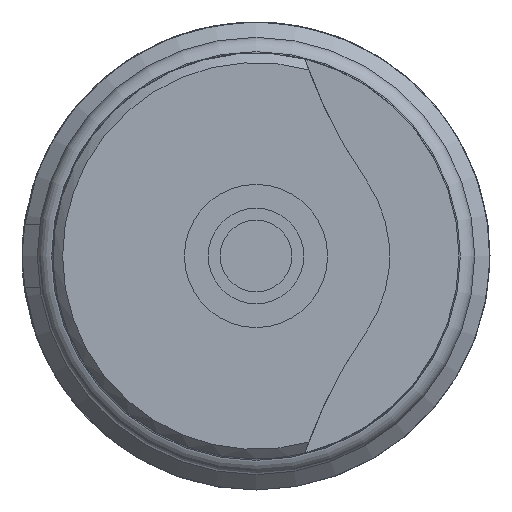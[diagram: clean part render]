
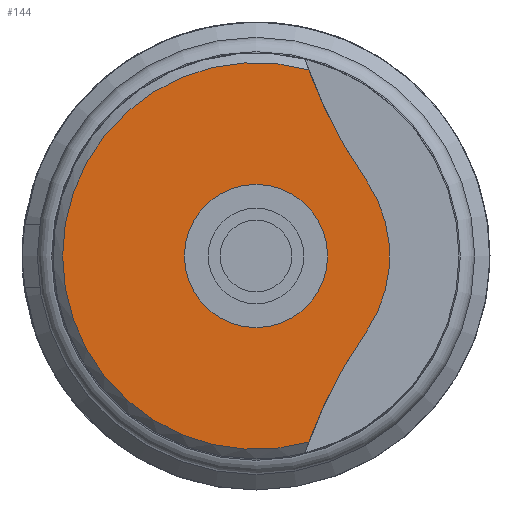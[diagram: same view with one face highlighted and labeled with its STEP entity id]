
A CAD part, left-side view. The second image highlights one B-rep face of the part: STEP entity #144.
In plain terms, the highlighted planar face has unit normal (-1, 0, 0).
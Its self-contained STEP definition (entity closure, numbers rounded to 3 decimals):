
#144 = ADVANCED_FACE( '', ( #308, #309 ), #310, .F. );
#308 = FACE_OUTER_BOUND( '', #475, .T. );
#309 = FACE_BOUND( '', #476, .T. );
#310 = PLANE( '', #477 );
#475 = EDGE_LOOP( '', ( #806, #807, #808, #809 ) );
#476 = EDGE_LOOP( '', ( #810 ) );
#477 = AXIS2_PLACEMENT_3D( '', #811, #812, #813 );
#806 = ORIENTED_EDGE( '', *, *, #992, .F. );
#807 = ORIENTED_EDGE( '', *, *, #935, .T. );
#808 = ORIENTED_EDGE( '', *, *, #924, .F. );
#809 = ORIENTED_EDGE( '', *, *, #976, .T. );
#810 = ORIENTED_EDGE( '', *, *, #994, .T. );
#811 = CARTESIAN_POINT( '', ( 0., 1.5, 0. ) );
#812 = DIRECTION( '', ( 1., 0., 0. ) );
#813 = DIRECTION( '', ( 0., 0., -1. ) );
#924 = EDGE_CURVE( '', #1093, #1094, #1095, .T. );
#935 = EDGE_CURVE( '', #1112, #1094, #1113, .T. );
#976 = EDGE_CURVE( '', #1093, #1170, #1172, .T. );
#992 = EDGE_CURVE( '', #1112, #1170, #1192, .T. );
#994 = EDGE_CURVE( '', #1194, #1194, #1195, .T. );
#1093 = VERTEX_POINT( '', #1320 );
#1094 = VERTEX_POINT( '', #1321 );
#1095 = CIRCLE( '', #1322, 2.8 );
#1112 = VERTEX_POINT( '', #1342 );
#1113 = CIRCLE( '', #1343, 10. );
#1170 = VERTEX_POINT( '', #1434 );
#1172 = CIRCLE( '', #1439, 10. );
#1192 = CIRCLE( '', #1462, 4.05 );
#1194 = VERTEX_POINT( '', #1464 );
#1195 = CIRCLE( '', #1465, 1.5 );
#1320 = CARTESIAN_POINT( '', ( 0., -2.317, 1.572 ) );
#1321 = CARTESIAN_POINT( '', ( 0., -2.317, -1.572 ) );
#1322 = AXIS2_PLACEMENT_3D( '', #1575, #1576, #1577 );
#1342 = CARTESIAN_POINT( '', ( 0., -1.104, -3.897 ) );
#1343 = AXIS2_PLACEMENT_3D( '', #1593, #1594, #1595 );
#1434 = CARTESIAN_POINT( '', ( 0., -1.104, 3.897 ) );
#1439 = AXIS2_PLACEMENT_3D( '', #1629, #1630, #1631 );
#1462 = AXIS2_PLACEMENT_3D( '', #1650, #1651, #1652 );
#1464 = CARTESIAN_POINT( '', ( 0., 0., -1.5 ) );
#1465 = AXIS2_PLACEMENT_3D( '', #1653, #1654, #1655 );
#1575 = CARTESIAN_POINT( '', ( 0., 0., 0. ) );
#1576 = DIRECTION( '', ( 1., 0., 0. ) );
#1577 = DIRECTION( '', ( 0., 0., -1. ) );
#1593 = CARTESIAN_POINT( '', ( 0., -10.5, -7.32 ) );
#1594 = DIRECTION( '', ( 1., 0., 0. ) );
#1595 = DIRECTION( '', ( 0., 0., -1. ) );
#1629 = CARTESIAN_POINT( '', ( 0., -10.5, 7.32 ) );
#1630 = DIRECTION( '', ( 1., 0., 0. ) );
#1631 = DIRECTION( '', ( 0., 0., -1. ) );
#1650 = CARTESIAN_POINT( '', ( 0., 0., 0. ) );
#1651 = DIRECTION( '', ( 1., 0., 0. ) );
#1652 = DIRECTION( '', ( 0., 0., -1. ) );
#1653 = CARTESIAN_POINT( '', ( 0., 0., 0. ) );
#1654 = DIRECTION( '', ( 1., 0., 0. ) );
#1655 = DIRECTION( '', ( 0., 0., -1. ) );
